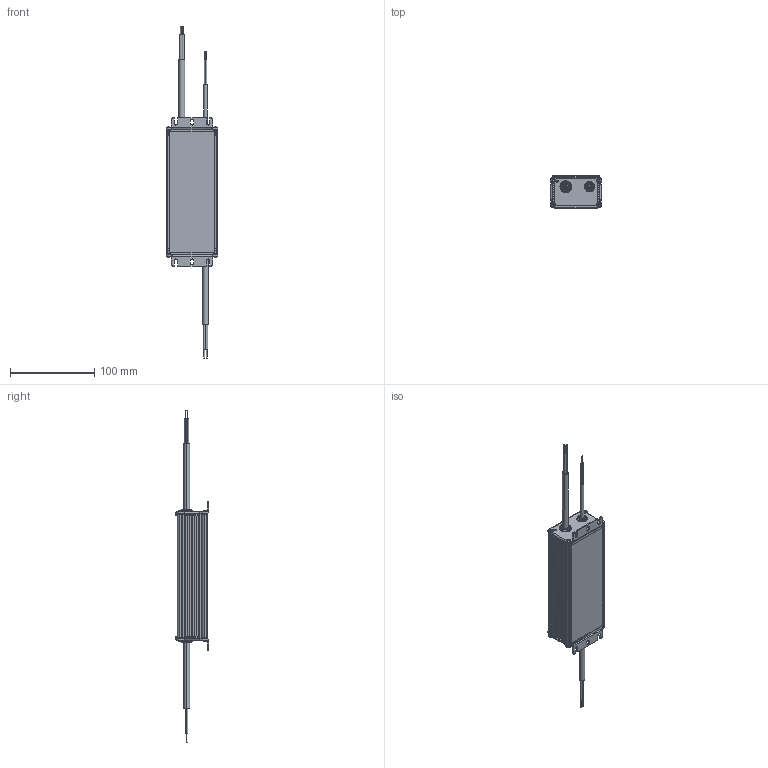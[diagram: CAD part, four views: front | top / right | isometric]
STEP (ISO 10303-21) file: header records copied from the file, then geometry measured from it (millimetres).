
FILE_DESCRIPTION (( 'STEP AP214' ), '1' );
FILE_NAME ('D30063563_110W.STEP', '2021-07-28T06:23:55', ( '' ), ( '' ), 'SwSTEP 2.0', 'SolidWorks 2020', '' );
FILE_SCHEMA (( 'AUTOMOTIVE_DESIGN' ));
Length unit declared in the file: millimetre
Products named in the file (1): D30063563_110W
Bounding box: 61.3 x 39.4 x 394 mm (x, y, z)
Volume: 316358.1 mm3; surface area: 75007.4 mm2
Topology: 37 solids, 37 shells, 1000 faces, 2508 edges, 1592 vertices
Faces by surface type: plane 447, cylinder 385, bspline 142, cone 26
Entity records: 44465 total; most frequent: CARTESIAN_POINT 10073, DIRECTION 5010, ORIENTED_EDGE 4976, EDGE_CURVE 2488, AXIS2_PLACEMENT_3D 1833, VERTEX_POINT 1592, VECTOR 1344, LINE 1344
